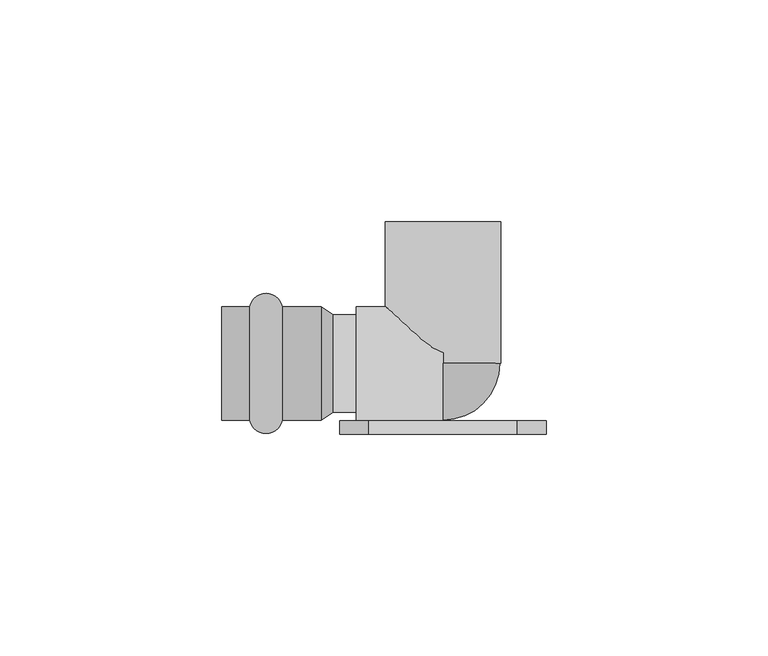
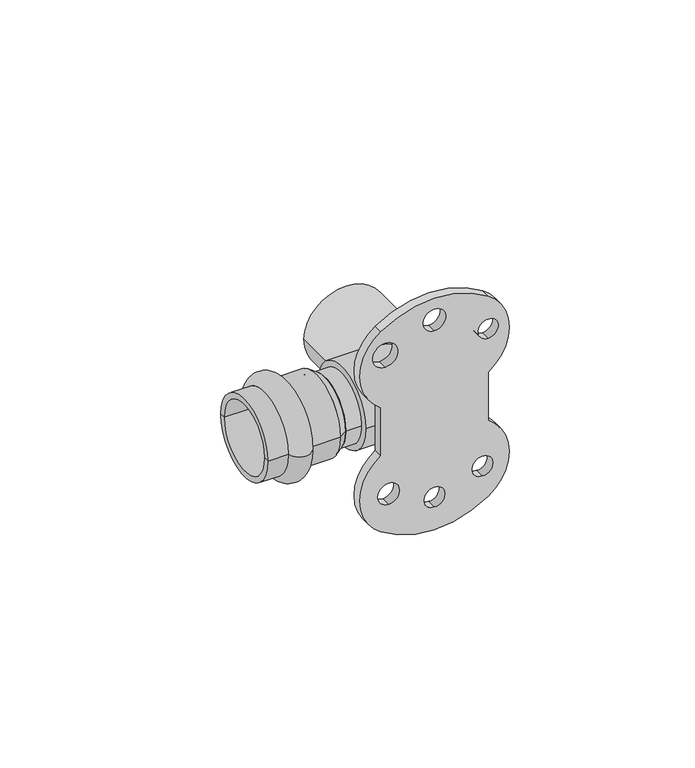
"""IFC4 building model written with IfcOpenShell, lengths in millimetres: pipe fitting geometry, VALTEC_VTi.954.I_Водорозетка : VTi.954.I."""

from ifc_helpers import new_model, si_unit, point, frame, frame_2d, origin, origin_2d, place, context, project, spatial, polyline, circle_curve, ellipse_curve, trimmed, segment, composite_curve, outline, extrude, source, transform, mapped, element, save
from ifc_brep_helpers import plane_surface, cylinder_surface, revolved_surface, advanced_brep


def pipe_fitting_24614e32(model_context):
    return source(origin(), model_context, "Body", "SolidModel", [
        advanced_brep(
        [(-43.6242346, -12.8, 0.0), (-43.6242346, 12.8, 0.0), (-36.2757654, 12.8, 0.0), (-36.2757654, -12.8, 0.0), (-50.0, -12.8, 0.0), (-50.0, 12.8, 0.0), (-50.0, -11.0, 0.0), (-50.0, 11.0, 0.0), (-27.5, -11.0, 0.0), (-27.5, 11.0, 0.0), (-27.5, -12.8, 0.0), (-27.5, 12.8, 0.0)],
        [
            (0, 1, circle_curve(frame((-43.6242346, 0.0, 0.0), z_axis=(1.0, 0.0, 0.0), x_axis=(0.0, 1.0, 0.0)), 12.8)),
            (1, 2, circle_curve(frame((-39.95, 12.05, 0.0), z_axis=(0.0, 0.0, -1.0), x_axis=(1.0, 0.0, 0.0)), 3.75)),
            (2, 3, circle_curve(frame((-36.2757654, 0.0, 0.0), z_axis=(-1.0, 0.0, 0.0), x_axis=(0.0, 1.0, 0.0)), 12.8)),
            (3, 0, circle_curve(frame((-39.95, -12.05, 0.0), z_axis=(0.0, 0.0, -1.0), x_axis=(1.0, 0.0, 0.0)), 3.75)),
            (1, 0, circle_curve(frame((-43.6242346, 0.0, 0.0), z_axis=(1.0, 0.0, 0.0), x_axis=(0.0, 1.0, 0.0)), 12.8)),
            (3, 2, circle_curve(frame((-36.2757654, 0.0, 0.0), z_axis=(-1.0, 0.0, 0.0), x_axis=(0.0, 1.0, 0.0)), 12.8)),
            (4, 5, circle_curve(frame((-50.0, 0.0, 0.0), z_axis=(1.0, 0.0, 0.0), x_axis=(0.0, 1.0, 0.0)), 12.8)),
            (5, 1),
            (0, 4),
            (5, 4, circle_curve(frame((-50.0, 0.0, 0.0), z_axis=(1.0, 0.0, 0.0), x_axis=(0.0, 1.0, 0.0)), 12.8)),
            (6, 7, circle_curve(frame((-50.0, 0.0, 0.0), z_axis=(1.0, 0.0, 0.0), x_axis=(0.0, 1.0, 0.0)), 11.0)),
            (7, 5),
            (4, 6),
            (7, 6, circle_curve(frame((-50.0, 0.0, 0.0), z_axis=(1.0, 0.0, 0.0), x_axis=(0.0, 1.0, 0.0)), 11.0)),
            (8, 9, circle_curve(frame((-27.5, 0.0, 0.0), z_axis=(1.0, 0.0, 0.0), x_axis=(0.0, 1.0, 0.0)), 11.0)),
            (9, 7),
            (6, 8),
            (9, 8, circle_curve(frame((-27.5, 0.0, 0.0), z_axis=(1.0, 0.0, 0.0), x_axis=(0.0, 1.0, 0.0)), 11.0)),
            (10, 11, circle_curve(frame((-27.5, 0.0, 0.0), z_axis=(1.0, 0.0, 0.0), x_axis=(0.0, 1.0, 0.0)), 12.8)),
            (11, 9),
            (8, 10),
            (11, 10, circle_curve(frame((-27.5, 0.0, 0.0), z_axis=(1.0, 0.0, 0.0), x_axis=(0.0, 1.0, 0.0)), 12.8)),
            (2, 11),
            (10, 3),
        ],
        [
            revolved_surface(trimmed(ellipse_curve(frame((-39.95, 12.05, 0.0), z_axis=(0.0, 0.0, 1.0), x_axis=(1.0, 0.0, 0.0)), 3.75, 3.75), [point((-36.2757654, 12.8, 0.0))], [point((-43.6242346, 12.8, 0.0))], True, "CARTESIAN"), (-53.5364426, 0.0, 0.0), (-1.0, 0.0, 0.0)),
            cylinder_surface(frame((-53.5364426, 0.0, 0.0), z_axis=(-1.0, 0.0, 0.0), x_axis=(0.0, 1.0, 0.0)), 12.8),
            plane_surface(frame((-50.0, 0.0, 0.0), z_axis=(-1.0, 0.0, 0.0), x_axis=(0.0, 1.0, 0.0))),
            revolved_surface(polyline([(-50.0, 11.0, 0.0), (-27.5, 11.0, 0.0)]), (-53.5364426, 0.0, 0.0), (-1.0, 0.0, 0.0)),
            plane_surface(frame((-27.5, 0.0, 0.0), z_axis=(1.0, 0.0, 0.0), x_axis=(0.0, 1.0, 0.0))),
        ],
        [
            (0, [[1, 2, 3, 4]]),
            (0, [[5, -4, 6, -2]]),
            (1, [[7, 8, -1, 9]]),
            (1, [[10, -9, -5, -8]]),
            (2, [[11, 12, -7, 13]]),
            (2, [[14, -13, -10, -12]]),
            (3, [[15, 16, -11, 17]]),
            (3, [[18, -17, -14, -16]]),
            (4, [[19, 20, -15, 21]]),
            (4, [[22, -21, -18, -20]]),
            (1, [[-3, 23, -19, 24]]),
            (1, [[-6, -24, -22, -23]]),
        ],
    ),
        extrude(outline(composite_curve([segment(polyline([(-7.9880122, 16.7174213), (7.9880122, 16.7174213)]), True, "CONTINUOUS"), segment(trimmed(circle_curve(frame_2d((20.4880122, 8.2246929)), 15.1121288), [point((7.9880122, 16.7174213))], [point((32.9880122, 16.7174213))], False, "CARTESIAN"), True, "CONTINUOUS"), segment(trimmed(circle_curve(frame_2d((8.3825197, 0.0)), 29.7473098), [point((32.9880122, 16.7174213))], [point((32.9880122, -16.7174213))], False, "CARTESIAN"), True, "CONTINUOUS"), segment(trimmed(circle_curve(frame_2d((20.4880122, -8.2246929)), 15.1121288), [point((32.9880122, -16.7174213))], [point((7.9880122, -16.7174213))], False, "CARTESIAN"), True, "CONTINUOUS"), segment(polyline([(7.9880122, -16.7174213), (-7.9880122, -16.7174213)]), True, "CONTINUOUS"), segment(trimmed(circle_curve(frame_2d((-20.4880122, -8.2246929)), 15.1121288), [point((-7.9880122, -16.7174213))], [point((-32.9880122, -16.7174213))], False, "CARTESIAN"), True, "CONTINUOUS"), segment(trimmed(circle_curve(frame_2d((-8.3825197, 0.0)), 29.7473098), [point((-32.9880122, -16.7174213))], [point((-32.9880122, 16.7174213))], False, "CARTESIAN"), True, "CONTINUOUS"), segment(trimmed(circle_curve(frame_2d((-20.4880122, 8.2246929)), 15.1121288), [point((-32.9880122, 16.7174213))], [point((-7.9880122, 16.7174213))], False, "CARTESIAN"), True, "CONTINUOUS")], self_intersect=False), holes=[composite_curve([segment(trimmed(circle_curve(frame_2d((-22.4078456, 14.9572115)), 3.2586084), [point((-19.1492372, 14.9572115))], [point((-25.6664541, 14.9572115))], True, "CARTESIAN"), True, "CONTINUOUS"), segment(trimmed(circle_curve(frame_2d((-22.4078456, 14.9572115)), 3.2586084), [point((-25.6664541, 14.9572115))], [point((-19.1492372, 14.9572115))], True, "CARTESIAN"), True, "CONTINUOUS")], self_intersect=False), composite_curve([segment(trimmed(circle_curve(frame_2d((-27.3898654, 0.0)), 3.2507226), [point((-24.1391428, 0.0))], [point((-30.640588, 0.0))], True, "CARTESIAN"), True, "CONTINUOUS"), segment(trimmed(circle_curve(frame_2d((-27.3898654, 0.0)), 3.2507226), [point((-30.640588, 0.0))], [point((-24.1391428, 0.0))], True, "CARTESIAN"), True, "CONTINUOUS")], self_intersect=False), composite_curve([segment(trimmed(circle_curve(frame_2d((-21.2868912, -14.3121545)), 3.401561), [point((-17.8853302, -14.3121545))], [point((-24.6884522, -14.3121545))], True, "CARTESIAN"), True, "CONTINUOUS"), segment(trimmed(circle_curve(frame_2d((-21.2868912, -14.3121545)), 3.401561), [point((-24.6884522, -14.3121545))], [point((-17.8853302, -14.3121545))], True, "CARTESIAN"), True, "CONTINUOUS")], self_intersect=False), composite_curve([segment(trimmed(circle_curve(frame_2d((22.3057816, 16.7174213)), 3.1302653), [point((25.4360468, 16.7174213))], [point((19.1755163, 16.7174213))], True, "CARTESIAN"), True, "CONTINUOUS"), segment(trimmed(circle_curve(frame_2d((22.3057816, 16.7174213)), 3.1302653), [point((19.1755163, 16.7174213))], [point((25.4360468, 16.7174213))], True, "CARTESIAN"), True, "CONTINUOUS")], self_intersect=False), composite_curve([segment(trimmed(circle_curve(frame_2d((31.0243161, 0.0)), 3.5243161), [point((34.5486322, 0.0))], [point((27.5, 0.0))], True, "CARTESIAN"), True, "CONTINUOUS"), segment(trimmed(circle_curve(frame_2d((31.0243161, 0.0)), 3.5243161), [point((27.5, 0.0))], [point((34.5486322, 0.0))], True, "CARTESIAN"), True, "CONTINUOUS")], self_intersect=False), composite_curve([segment(trimmed(circle_curve(frame_2d((24.75, -15.3085584)), 3.9300859), [point((28.6800859, -15.3085584))], [point((20.8199141, -15.3085584))], True, "CARTESIAN"), True, "CONTINUOUS"), segment(trimmed(circle_curve(frame_2d((24.75, -15.3085584)), 3.9300859), [point((20.8199141, -15.3085584))], [point((28.6800859, -15.3085584))], True, "CARTESIAN"), True, "CONTINUOUS")], self_intersect=False)]), frame((0.0, -16.0, 0.0), z_axis=(0.0, 1.0, 0.0), x_axis=(0.0, 0.0, 1.0)), (0.0, 0.0, 1.0), 3.0),
        advanced_brep(
        [(0.0, 0.0, -12.8), (0.0, 0.0, 12.8)],
        [
            (0, 1, circle_curve(frame((0.0, 0.0, 0.0), z_axis=(-1.0, 0.0, 0.0), x_axis=(0.0, -1.0, 0.0)), 12.8)),
            (1, 0),
            (1, 0, circle_curve(frame((0.0, 0.0, 0.0), z_axis=(0.0, 1.0, 0.0), x_axis=(1.0, 0.0, 0.0)), 12.8)),
        ],
        [
            plane_surface(frame((0.0, 0.0, 1.732782), z_axis=(-1.0, 0.0, 0.0), x_axis=(0.0, -1.0, 0.0))),
            plane_surface(frame((0.0, 0.0, 1.732782), z_axis=(0.0, 1.0, 0.0), x_axis=(1.0, 0.0, 0.0))),
            revolved_surface(trimmed(ellipse_curve(frame((0.0, 0.0, 0.0), z_axis=(-1.0, 0.0, 0.0), x_axis=(0.0, -1.0, 0.0)), 12.8, 12.8), [point((0.0, 0.0, -12.8))], [point((0.0, 0.0, 12.8))], True, "CARTESIAN"), (0.0, 0.0, 1.732782), (0.0, 0.0, 1.0)),
        ],
        [
            (0, [[1, 2]]),
            (1, [[3, -2]]),
            (2, [[-1, -3]]),
        ],
    ),
        extrude(outline(composite_curve([segment(trimmed(circle_curve(origin_2d(), 12.8), [point((-12.8, 0.0))], [point((12.8, 0.0))], False, "CARTESIAN"), True, "CONTINUOUS"), segment(trimmed(circle_curve(origin_2d(), 12.8), [point((12.8, 0.0))], [point((-12.8, 0.0))], False, "CARTESIAN"), True, "CONTINUOUS")], self_intersect=False)), frame((-19.6390217, 0.0, 0.0), z_axis=(1.0, 0.0, 0.0), x_axis=(0.0, 1.0, 0.0)), (0.0, 0.0, 1.0), 19.6390217),
        extrude(outline(composite_curve([segment(trimmed(circle_curve(origin_2d(), 13.0), [point((0.0, -13.0))], [point((0.0, 13.0))], False, "CARTESIAN"), True, "CONTINUOUS"), segment(trimmed(circle_curve(origin_2d(), 13.0), [point((0.0, 13.0))], [point((0.0, -13.0))], False, "CARTESIAN"), True, "CONTINUOUS")], self_intersect=False), holes=[composite_curve([segment(trimmed(circle_curve(origin_2d(), 10.0), [point((0.0, -10.0))], [point((0.0, 10.0))], True, "CARTESIAN"), True, "CONTINUOUS"), segment(trimmed(circle_curve(origin_2d(), 10.0), [point((0.0, 10.0))], [point((0.0, -10.0))], True, "CARTESIAN"), True, "CONTINUOUS")], self_intersect=False)]), frame((0.0, 0.0, 0.0), z_axis=(0.0, 1.0, 0.0), x_axis=(0.0, 0.0, 1.0)), (0.0, 0.0, 1.0), 32.0),
        extrude(outline(composite_curve([segment(trimmed(circle_curve(origin_2d(), 11.0), [point((-11.0, 0.0))], [point((11.0, 0.0))], False, "CARTESIAN"), True, "CONTINUOUS"), segment(trimmed(circle_curve(origin_2d(), 11.0), [point((11.0, 0.0))], [point((-11.0, 0.0))], False, "CARTESIAN"), True, "CONTINUOUS")], self_intersect=False)), frame((-24.75, 0.0, 0.0), z_axis=(1.0, 0.0, 0.0), x_axis=(0.0, 1.0, 0.0)), (0.0, 0.0, 1.0), 5.1109783),
        advanced_brep(
        [(-27.5, -12.8, 0.0), (-27.5, 12.8, 0.0), (-24.75, -11.0, 0.0), (-24.75, 11.0, 0.0)],
        [
            (0, 1, circle_curve(frame((-27.5, 0.0, 0.0), z_axis=(-1.0, 0.0, 0.0), x_axis=(0.0, -1.0, 0.0)), 12.8)),
            (1, 0, circle_curve(frame((-27.5, 0.0, 0.0), z_axis=(-1.0, 0.0, 0.0), x_axis=(0.0, 1.0, 0.0)), 12.8)),
            (2, 3, circle_curve(frame((-24.75, 0.0, 0.0), z_axis=(1.0, 0.0, 0.0), x_axis=(0.0, 1.0, 0.0)), 11.0)),
            (3, 2, circle_curve(frame((-24.75, 0.0, 0.0), z_axis=(1.0, 0.0, 0.0), x_axis=(0.0, -1.0, 0.0)), 11.0)),
            (2, 0),
            (1, 3),
        ],
        [
            plane_surface(frame((-27.5, 0.0, 0.0), z_axis=(-1.0, 0.0, 0.0), x_axis=(0.0, 0.0, -1.0))),
            plane_surface(frame((-24.75, 0.0, 0.0), z_axis=(1.0, 0.0, 0.0), x_axis=(0.0, 0.0, -1.0))),
            revolved_surface(polyline([(-24.75, -11.000000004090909, 0.0), (-27.5, -12.8, 0.0)]), (-7.9444444, 0.0, 0.0), (-1.0, 0.0, 0.0)),
            revolved_surface(polyline([(-24.75, 11.000000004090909, 0.0), (-27.5, 12.8, 0.0)]), (-7.9444444, 0.0, 0.0), (-1.0, 0.0, 0.0)),
        ],
        [
            (0, [[1, 2]]),
            (1, [[3, 4]]),
            (2, [[-3, 5, -2, 6]]),
            (3, [[-4, -6, -1, -5]]),
        ],
    ),
    ])


if __name__ == "__main__":
    model = new_model("IFC4")
    model_context = context("Model", 3, world=origin())
    ifc_project = project(units=[si_unit("LENGTHUNIT", "METRE", prefix="MILLI")], contexts=[model_context])
    site = spatial("IfcSite", under=ifc_project)
    building = spatial("IfcBuilding", under=site)
    placement = place(None, origin())
    pipe_fitting_shape = pipe_fitting_24614e32(model_context)
    element("IfcPipeFitting", 1, ObjectType="VALTEC_VTi.954.I_Водорозетка : VTi.954.I", at=placement, inside=building, context=model_context, shape_type="MappedRepresentation", body=[
        mapped(pipe_fitting_shape, transform((0.0, 0.0, 0.0), x_axis=(1.0, 0.0, 0.0), y_axis=(0.0, 1.0, 0.0), z_axis=(0.0, 0.0, 1.0))),
    ])
    save(model, "model.ifc")
